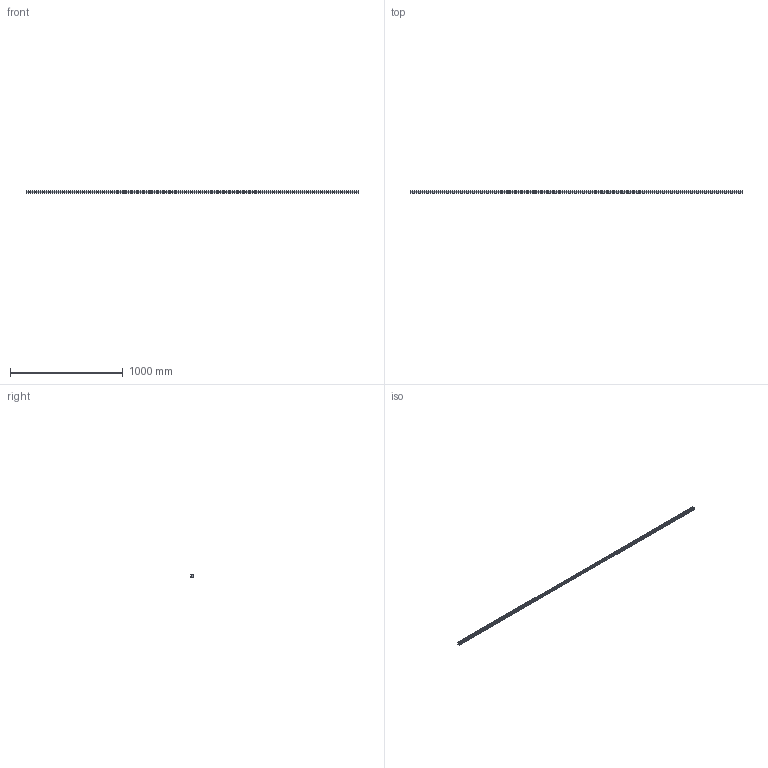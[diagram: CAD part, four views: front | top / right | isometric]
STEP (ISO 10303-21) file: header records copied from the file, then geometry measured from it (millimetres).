
FILE_DESCRIPTION (( 'STEP AP203' ), '1' );
FILE_NAME ('L1018.25R-2940.step', '2023-08-06T10:44:54', ( '' ), ( '' ), 'SwSTEP 2.0', 'SolidWorks 2019', '' );
FILE_SCHEMA (( 'CONFIG_CONTROL_DESIGN' ));
Length unit declared in the file: millimetre
Products named in the file (1): L1018.25R-2940
Bounding box: 2940 x 21.8 x 25 mm (x, y, z)
Volume: 1222711 mm3; surface area: 292787.1 mm2
Topology: 1 solids, 1 shells, 470 faces, 1061 edges, 593 vertices
Faces by surface type: cylinder 199, cone 196, plane 75
Entity records: 12464 total; most frequent: DIRECTION 2401, CARTESIAN_POINT 2027, ORIENTED_EDGE 1926, AXIS2_PLACEMENT_3D 967, EDGE_CURVE 963, VERTEX_POINT 593, EDGE_LOOP 568, CIRCLE 496
